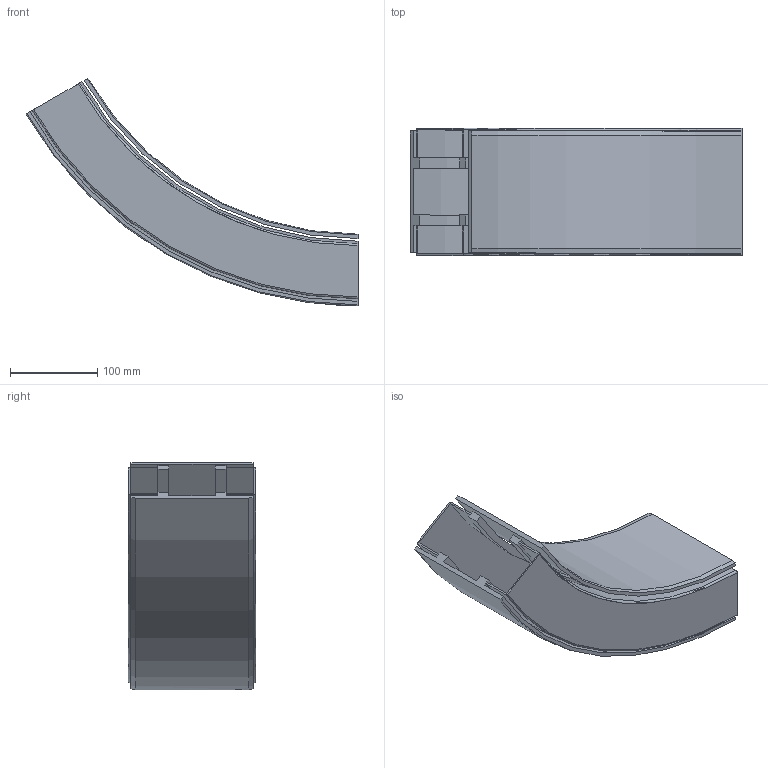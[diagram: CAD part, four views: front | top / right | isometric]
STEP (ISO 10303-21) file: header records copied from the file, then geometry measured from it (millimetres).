
FILE_DESCRIPTION(/* description */ ('VERTIKALKURVA S540 R400'),/* implementation_level */ '2;1');
FILE_NAME(/* name */ '540-5645+140-2000-NER-01.stp',/* time_stamp */ '2022-09-21T10:52:27+02:00',/* author */ ('Mathias.Dore'),/* organization */ ('CARRYLINE'),/* preprocessor_version */ 'ST-DEVELOPER v19.2',/* originating_system */ 'Autodesk Inventor 2023',/* authorisation */ '');
FILE_SCHEMA (('AUTOMOTIVE_DESIGN { 1 0 10303 214 3 1 1 }'));
Length unit declared in the file: millimetre
Products named in the file (1): 540-5645+140-2000-NER-01
Bounding box: 380.62 x 146 x 260.75 mm (x, y, z)
Volume: 958959.1 mm3; surface area: 499079.5 mm2
Topology: 2 solids, 2 shells, 87 faces, 234 edges, 156 vertices
Faces by surface type: plane 40, cylinder 25, bspline 14, cone 4, torus 4
Entity records: 7378 total; most frequent: CARTESIAN_POINT 5179, ORIENTED_EDGE 468, DIRECTION 408, EDGE_CURVE 234, VERTEX_POINT 156, AXIS2_PLACEMENT_3D 141, LINE 126, VECTOR 126
